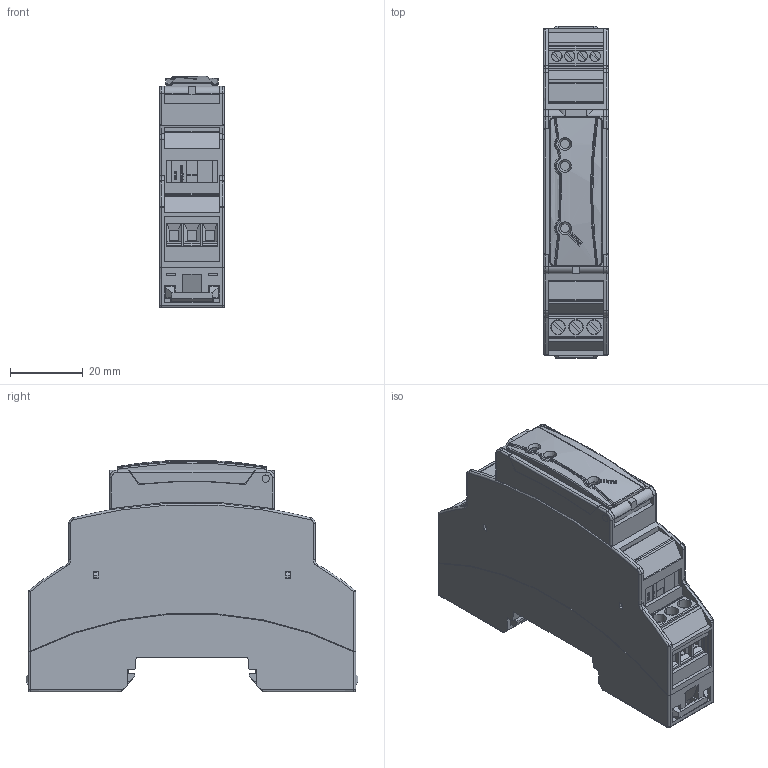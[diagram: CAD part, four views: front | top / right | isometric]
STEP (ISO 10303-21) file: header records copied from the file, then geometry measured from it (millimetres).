
FILE_DESCRIPTION(/* description */ (''),/* implementation_level */ '2;1');
FILE_NAME(/* name */ '2000.35.016_20260618.stp',/* time_stamp */ '2026-06-18T11:06:31+02:00',/* author */ ('ut3'),/* organization */ (''),/* preprocessor_version */ 'ST-DEVELOPER v20.1',/* originating_system */ 'Autodesk Inventor 2026',/* authorisation */ '');
FILE_SCHEMA (('AUTOMOTIVE_DESIGN { 1 0 10303 214 3 1 1 }'));
Products named in the file (15): 2000.35.016; 2279732; 2896241; 2896241_01; 2896241_02; 2896241_03; 2896102; 2896102_02; 2278429; 2854102; PCB; pxc_2854115_01_00_ME-B-17-5-MKDSO-KMGY_3D; ME_B-17.5_MKDSO_machining_area; ME_B-17.5_MKDSO_H.Select_00777960; 1900.00.173_fori
Assembly tree (15 placements, depth 3):
  2000.35.016
    2279732
    2896241
      2896241_01
      2896241_02
      2896241_03
    2896102
      2896102_02
    2278429
    2854102
    PCB
    pxc_2854115_01_00_ME-B-17-5-MKDSO-KMGY_3D  x2
      ME_B-17.5_MKDSO_machining_area
      ME_B-17.5_MKDSO_H.Select_00777960
    1900.00.173_fori
Bounding box: 17.8 x 91 x 63.43 mm (x, y, z)
Volume: 31648.8 mm3; surface area: 46081.5 mm2
Topology: 13 solids, 13 shells, 2565 faces, 7278 edges, 4789 vertices
Faces by surface type: plane 2173, cylinder 301, bspline 57, torus 20, sphere 11, cone 3
Full cylindrical faces by diameter (mm): 0.025 x1, 2.403 x4, 2.743 x3
Entity records: 72486 total; most frequent: CARTESIAN_POINT 19383, ORIENTED_EDGE 11324, DIRECTION 10180, EDGE_CURVE 5662, LINE 4782, VECTOR 4782, VERTEX_POINT 3717, AXIS2_PLACEMENT_3D 2699
